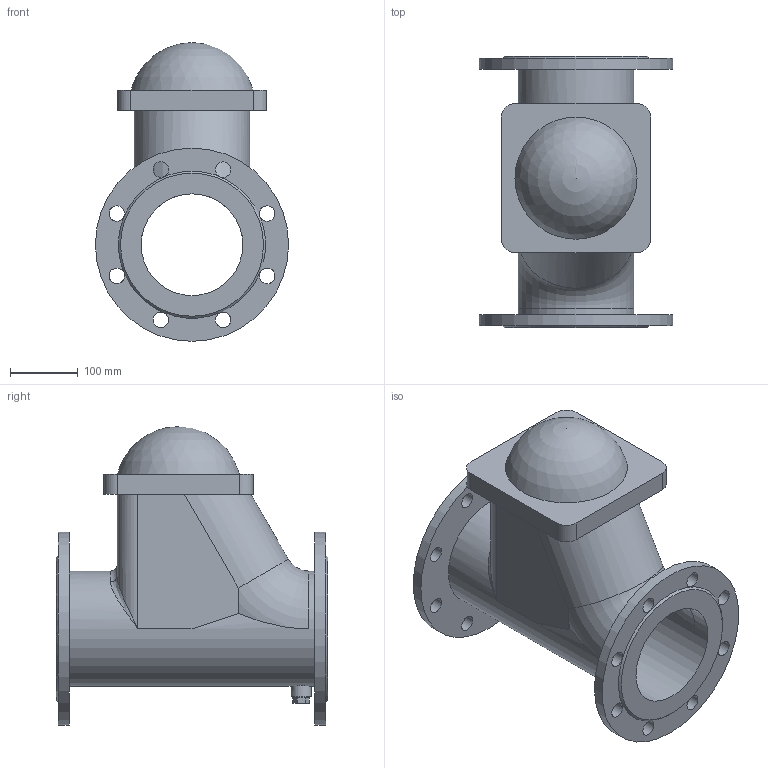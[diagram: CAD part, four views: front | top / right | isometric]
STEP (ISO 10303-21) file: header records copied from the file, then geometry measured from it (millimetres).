
FILE_DESCRIPTION(('STEP AP203'), '1');
FILE_NAME('Êëàïàí îáðàòíûé øàðîâîé ôëàíöåâûé 012F.Z DN150 PN10_16', '', ('UNSPECIFIED'), ('UNSPECIFIED'), 'ASCON STEP Converter 1.6', 'ASCON Math Kernel', '');
FILE_SCHEMA(('CONFIG_CONTROL_DESIGN'));
Length unit declared in the file: millimetre
Bounding box: 285 x 400 x 440.5 mm (x, y, z)
Volume: 9097485 mm3; surface area: 821219.5 mm2
Topology: 1 solids, 1 shells, 70 faces, 202 edges, 127 vertices
Faces by surface type: plane 32, cylinder 30, torus 3, bspline 2, cone 2, sphere 1
Full cylindrical faces by diameter (mm): 23 x16, 25 x1, 30 x1, 150 x1, 170 x1, 285 x2
Entity records: 3350 total; most frequent: CARTESIAN_POINT 936, DIRECTION 380, ORIENTED_EDGE 340, EDGE_CURVE 170, AXIS2_PLACEMENT_3D 162, EDGE_LOOP 139, VERTEX_POINT 125, FACE_BOUND 104
